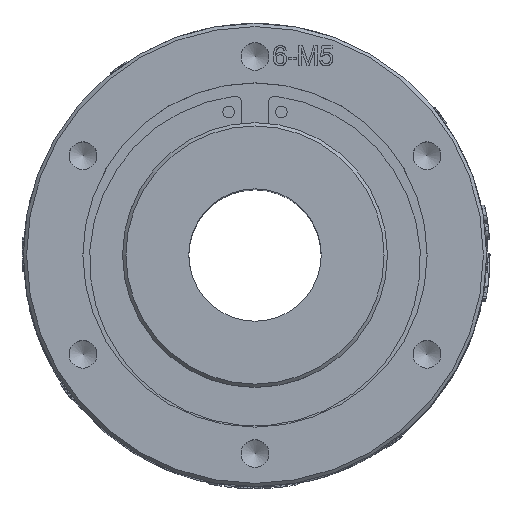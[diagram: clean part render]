
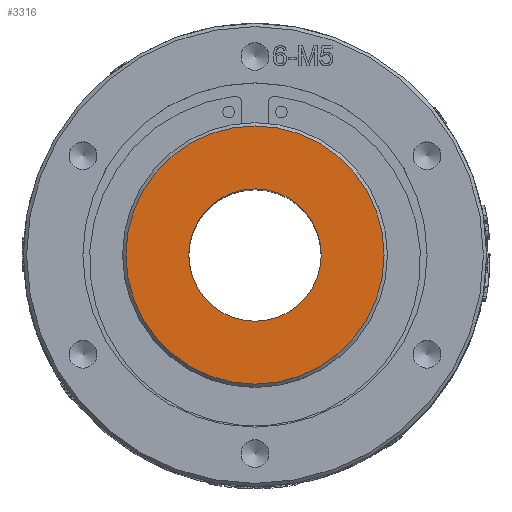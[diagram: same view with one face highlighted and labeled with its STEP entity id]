
A CAD part, top view. The second image highlights one B-rep face of the part: STEP entity #3316.
In plain terms, the highlighted planar face has unit normal (0, 0, 1).
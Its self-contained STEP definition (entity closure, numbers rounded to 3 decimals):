
#524=FACE_BOUND('',#8480,.T.);
#525=FACE_BOUND('',#8481,.T.);
#796=CIRCLE('',#27433,19.5);
#797=CIRCLE('',#27435,10.);
#1426=PLANE('',#27436);
#3316=ADVANCED_FACE('',(#524,#525),#1426,.T.);
#8480=EDGE_LOOP('',(#14304));
#8481=EDGE_LOOP('',(#14305));
#14304=ORIENTED_EDGE('',*,*,#22407,.T.);
#14305=ORIENTED_EDGE('',*,*,#22408,.F.);
#18749=VERTEX_POINT('',#51335);
#18750=VERTEX_POINT('',#51338);
#22407=EDGE_CURVE('',#18749,#18749,#796,.T.);
#22408=EDGE_CURVE('',#18750,#18750,#797,.T.);
#27433=AXIS2_PLACEMENT_3D('',#51334,#30601,#30602);
#27435=AXIS2_PLACEMENT_3D('',#51337,#30605,#30606);
#27436=AXIS2_PLACEMENT_3D('',#51339,#30607,#30608);
#30601=DIRECTION('',(0.,0.,1.));
#30602=DIRECTION('',(1.,0.,0.));
#30605=DIRECTION('',(0.,0.,1.));
#30606=DIRECTION('',(1.,0.,0.));
#30607=DIRECTION('',(0.,0.,1.));
#30608=DIRECTION('',(1.,0.,0.));
#51334=CARTESIAN_POINT('',(0.,0.,87.5));
#51335=CARTESIAN_POINT('',(19.5,0.,87.5));
#51337=CARTESIAN_POINT('',(0.,0.,87.5));
#51338=CARTESIAN_POINT('',(10.,0.,87.5));
#51339=CARTESIAN_POINT('',(0.,0.,87.5));
